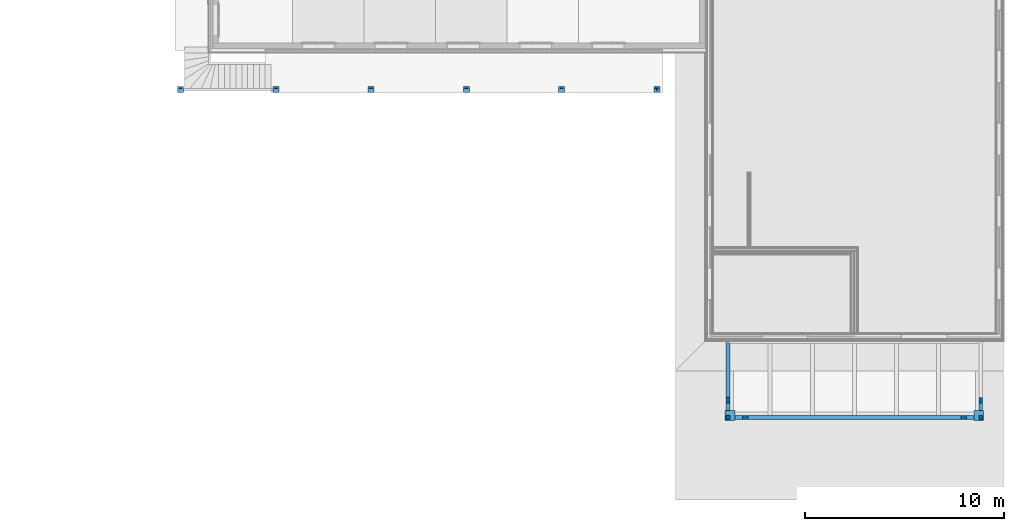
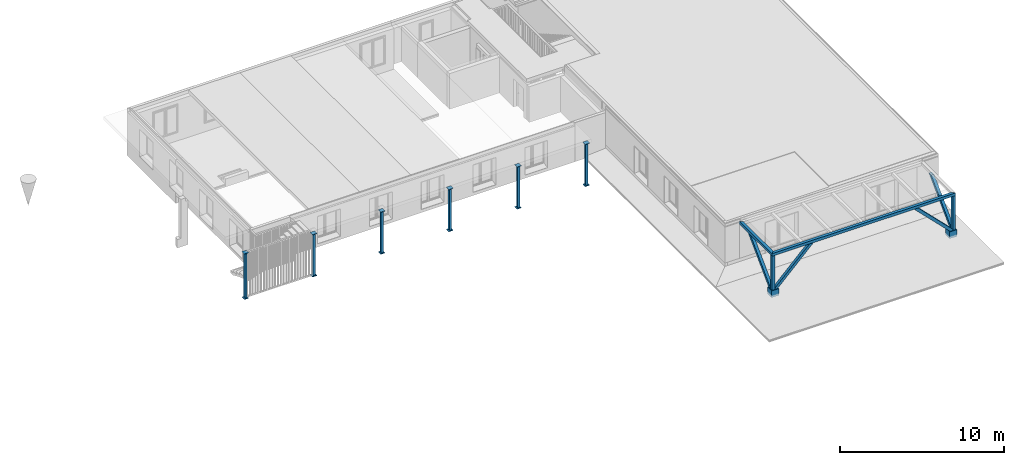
# One storey, part 1 of 20: 12 columns, 2 beams, 2 footings.
"""IFC4 building model written with IfcOpenShell, lengths in millimetres."""

from ifc_helpers import new_model, entity, si_unit, converted_unit, derived_unit, direction, frame, origin_with_axes, place, context, subcontext, project, spatial, polygons, material, constituent, constituent_set, type_object, element, save


model = new_model("IFC4")

# Units and contexts
model_context = context("Model", 3, precision=0.01, world=origin_with_axes(), true_north=direction((0.0, 1.0)))
body_context = subcontext(model_context, "Body", "Model", "MODEL_VIEW")
ifc_project = project(units=[si_unit("LENGTHUNIT", "METRE", prefix="MILLI"), si_unit("AREAUNIT", "SQUARE_METRE"), si_unit("VOLUMEUNIT", "CUBIC_METRE"), converted_unit("PLANEANGLEUNIT", "DEGREE", entity("IfcPlaneAngleMeasure", 0.0174532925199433), si_unit("PLANEANGLEUNIT", "RADIAN"), dimensions=[0, 0, 0, 0, 0, 0, 0]), converted_unit("TIMEUNIT", "Year", entity("IfcTimeMeasure", 31557600.0), si_unit("TIMEUNIT", "SECOND"), dimensions=[0, 0, 1, 0, 0, 0, 0]), si_unit("MASSUNIT", "GRAM", prefix="KILO"), si_unit("THERMODYNAMICTEMPERATUREUNIT", "DEGREE_CELSIUS"), si_unit("LUMINOUSINTENSITYUNIT", "LUMEN"), si_unit("ENERGYUNIT", "JOULE", prefix="MEGA"), derived_unit("THERMALCONDUCTANCEUNIT", [(si_unit("POWERUNIT", "WATT"), 1), (si_unit("LENGTHUNIT", "METRE"), -1), (si_unit("THERMODYNAMICTEMPERATUREUNIT", "KELVIN"), -1)]), derived_unit("SPECIFICHEATCAPACITYUNIT", [(si_unit("ENERGYUNIT", "JOULE"), 1), (si_unit("MASSUNIT", "GRAM", prefix="KILO"), -1), (si_unit("THERMODYNAMICTEMPERATUREUNIT", "KELVIN"), -1)]), derived_unit("MASSDENSITYUNIT", [(si_unit("MASSUNIT", "GRAM", prefix="KILO"), 1), (si_unit("VOLUMEUNIT", "CUBIC_METRE"), -1)])], contexts=[model_context])

# Site, building, storey
site_placement = place(None, origin_with_axes())
site = spatial("IfcSite", under=ifc_project, at=site_placement, Name="Gelände", CompositionType="ELEMENT")
building_placement = place(site_placement, origin_with_axes())
building = spatial("IfcBuilding", under=site, at=building_placement, Name="Gebäude", CompositionType="ELEMENT")
storey_placement = place(building_placement, frame((0.0, 0.0, 5.198845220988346e-05), z_axis=(0.0, 0.0, 1.0), x_axis=(1.0, 0.0, 0.0)))
storey = spatial("IfcBuildingStorey", under=building, at=storey_placement, Name="EG", CompositionType="ELEMENT", Elevation=0.0)

# Footings
ifc_material_1 = material(Name="Beton bewehrt")
footing_type = type_object("IfcFootingType", Name="Beton bewehrt 500 x 500", PredefinedType="NOTDEFINED")
footing_1_placement = place(storey_placement, frame((31682.9974188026, 4718.59728131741, 0.0), z_axis=(0.0, 0.0, 1.0), x_axis=(1.0, 0.0, 0.0)))
element("IfcFooting", 1, at=footing_1_placement, inside=storey, type_object=footing_type, material=ifc_material_1, Name="Stütze-015", PredefinedType="NOTDEFINED", context=body_context, shape_type="Tessellation", body=[
    polygons([(250.0, 250.0, 500.0000000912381), (250.0, 250.0, 0.0), (-250.0, 250.0, 0.0), (-250.0, 250.0, 500.0000000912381), (250.0, -250.0, 500.0000000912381), (250.0, -250.0, 0.0), (-250.0, -250.0, 0.0), (-250.0, -250.0, 500.0000000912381)], [[[1, 2, 3, 4]], [[5, 6, 2, 1]], [[3, 2, 6, 7]], [[4, 3, 7, 8]], [[5, 1, 4, 8]], [[8, 7, 6, 5]]], closed=True),
])
footing_2_placement = place(storey_placement, frame((19174.99747005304, 4718.59728131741, 0.0), z_axis=(0.0, 0.0, 1.0), x_axis=(1.0, 0.0, 0.0)))
element("IfcFooting", 2, at=footing_2_placement, inside=storey, type_object=footing_type, material=ifc_material_1, Name="Stütze-015", PredefinedType="NOTDEFINED", context=body_context, shape_type="Tessellation", body=[
    polygons([(-250.0, -250.0, 500.0000000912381), (-250.0, -250.0, 0.0), (250.0, -250.0, 0.0), (250.0, -250.0, 500.0000000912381), (-250.0, 250.0, 500.0000000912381), (-250.0, 250.0, 0.0), (250.0, 250.0, 0.0), (250.0, 250.0, 500.0000000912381)], [[[1, 2, 3, 4]], [[5, 6, 2, 1]], [[3, 2, 6, 7]], [[4, 3, 7, 8]], [[5, 1, 4, 8]], [[8, 7, 6, 5]]], closed=True),
])

# Columns
ifc_material_2 = material(Name="Massivholz")
column_type_1 = type_object("IfcColumnType", Name="Massivholz 200 x 200", PredefinedType="NOTDEFINED")
column_1_placement = place(storey_placement, frame((31782.9974188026, 4777.175925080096, 500.0000000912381), z_axis=(0.0, 0.0, 1.0), x_axis=(1.0, 0.0, 0.0)))
element("IfcColumn", 3, at=column_1_placement, inside=storey, type_object=column_type_1, material=ifc_material_2, Name="Stütze-015", PredefinedType="NOTDEFINED", context=body_context, shape_type="Tessellation", body=[
    polygons([(-100.0000000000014, -58.57864376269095, 82.84271247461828), (100.0000000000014, -58.5786437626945, 82.84271247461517), (100.0000000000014, 2378.578591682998, 2519.999947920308), (-99.99999999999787, 2378.578591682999, 2519.999947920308), (100.0000000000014, -58.5786437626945, 0.0), (-100.0000000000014, -58.57864376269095, 0.0), (100.0000000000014, 141.4213562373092, 0.0), (100.0000000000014, 2661.421304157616, 2519.999947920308), (-100.0000000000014, 2661.421304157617, 2519.999947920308), (-99.99999999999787, 141.4213562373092, 0.0)], [[[1, 2, 3, 4]], [[5, 2, 1, 6]], [[2, 5, 7, 8, 3]], [[8, 9, 4, 3]], [[6, 1, 4, 9, 10]], [[5, 6, 10, 7]], [[9, 8, 7, 10]]], closed=True),
])
column_2_placement = place(storey_placement, frame((31624.41877503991, 4618.597281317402, 500.0000000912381), z_axis=(0.0, 0.0, 1.0), x_axis=(0.0, 1.0, 0.0)))
element("IfcColumn", 4, at=column_2_placement, inside=storey, type_object=column_type_1, material=ifc_material_2, Name="Stütze-015", PredefinedType="NOTDEFINED", context=body_context, shape_type="Tessellation", body=[
    polygons([(-99.99999999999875, -58.57864376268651, 82.84271247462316), (100.0000000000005, -58.57864376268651, 82.84271247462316), (100.0000000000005, 2378.578591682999, 2519.999947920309), (-99.99999999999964, 2378.578591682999, 2519.999947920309), (100.0000000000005, -58.57864376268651, 0.0), (-99.99999999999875, -58.57864376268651, 0.0), (99.99999999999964, 141.4213562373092, 0.0), (100.0000000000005, 2661.421304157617, 2519.999947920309), (-99.99999999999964, 2661.421304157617, 2519.999947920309), (-99.99999999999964, 141.4213562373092, 0.0)], [[[1, 2, 3, 4]], [[5, 2, 1, 6]], [[2, 5, 7, 8, 3]], [[4, 3, 8, 9]], [[6, 1, 4, 9, 10]], [[5, 6, 10, 7]], [[9, 8, 7, 10]]], closed=True),
])
column_3_placement = place(storey_placement, frame((31782.9974188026, 4618.597281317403, 500.0000000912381), z_axis=(0.0, 0.0, 1.0), x_axis=(1.0, 0.0, 0.0)))
element("IfcColumn", 5, at=column_3_placement, inside=storey, type_object=column_type_1, material=ifc_material_2, Name="Stütze-015", PredefinedType="NOTDEFINED", context=body_context, shape_type="Tessellation", body=[
    polygons([(100.0000000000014, 99.99999999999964, 2519.999947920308), (100.0000000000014, 99.99999999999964, 0.0), (-100.0000000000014, 99.99999999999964, 0.0), (-100.0000000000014, 99.99999999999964, 2519.999947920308), (100.0000000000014, -99.99999999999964, 2519.999947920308), (100.0000000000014, -99.99999999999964, 0.0), (-100.0000000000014, -99.99999999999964, 0.0), (-100.0000000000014, -99.99999999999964, 2519.999947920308)], [[[1, 2, 3, 4]], [[5, 6, 2, 1]], [[3, 2, 6, 7]], [[4, 3, 7, 8]], [[5, 1, 4, 8]], [[8, 7, 6, 5]]], closed=True),
])
column_4_placement = place(storey_placement, frame((19074.99747005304, 4777.175925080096, 500.0000000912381), z_axis=(0.0, 0.0, 1.0), x_axis=(1.0, 0.0, 0.0)))
element("IfcColumn", 6, at=column_4_placement, inside=storey, type_object=column_type_1, material=ifc_material_2, Name="Stütze-015", PredefinedType="NOTDEFINED", context=body_context, shape_type="Tessellation", body=[
    polygons([(-100.0000000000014, -58.5786437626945, 82.84271247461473), (100.0000000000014, -58.57864376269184, 82.84271247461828), (99.99999999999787, 2378.578591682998, 2519.999947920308), (-100.0000000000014, 2378.578591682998, 2519.999947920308), (100.0000000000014, -58.57864376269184, 0.0), (-100.0000000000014, -58.5786437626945, 0.0), (100.0000000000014, 141.4213562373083, 0.0), (100.0000000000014, 2661.421304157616, 2519.999947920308), (-99.99999999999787, 2661.421304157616, 2519.999947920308), (-99.99999999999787, 141.4213562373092, 0.0)], [[[1, 2, 3, 4]], [[5, 2, 1, 6]], [[2, 5, 7, 8, 3]], [[4, 3, 8, 9]], [[6, 1, 4, 9, 10]], [[5, 6, 10, 7]], [[9, 8, 7, 10]]], closed=True),
])
column_5_placement = place(storey_placement, frame((19233.57611381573, 4618.597281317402, 500.0000000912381), z_axis=(0.0, 0.0, 1.0), x_axis=(0.0, -1.0, 0.0)))
element("IfcColumn", 7, at=column_5_placement, inside=storey, type_object=column_type_1, material=ifc_material_2, Name="Stütze-015", PredefinedType="NOTDEFINED", context=body_context, shape_type="Tessellation", body=[
    polygons([(-100.0000000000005, -58.57864376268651, 0.0), (-100.0000000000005, -58.57864376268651, 82.84271247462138), (-100.0000000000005, 2378.578591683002, 2519.999947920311), (-100.0000000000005, 2661.421304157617, 2519.999947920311), (-100.0000000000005, 141.4213562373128, 0.0), (99.99999999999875, -58.57864376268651, 82.84271247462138), (99.99999999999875, -58.57864376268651, 0.0), (99.99999999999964, 2378.578591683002, 2519.999947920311), (99.99999999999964, 2661.421304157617, 2519.999947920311), (99.99999999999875, 141.4213562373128, 0.0)], [[[1, 2, 3, 4, 5]], [[6, 2, 1, 7]], [[2, 6, 8, 3]], [[9, 4, 3, 8]], [[4, 9, 10, 5]], [[7, 1, 5, 10]], [[6, 7, 10, 9, 8]]], closed=True),
])
column_6_placement = place(storey_placement, frame((19074.99747005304, 4618.597281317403, 500.0000000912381), z_axis=(0.0, 0.0, 1.0), x_axis=(1.0, 0.0, 0.0)))
element("IfcColumn", 8, at=column_6_placement, inside=storey, type_object=column_type_1, material=ifc_material_2, Name="Stütze-015", PredefinedType="NOTDEFINED", context=body_context, shape_type="Tessellation", body=[
    polygons([(-100.0000000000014, -99.99999999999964, 2519.999947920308), (-100.0000000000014, -99.99999999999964, 0.0), (100.0000000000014, -99.99999999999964, 0.0), (100.0000000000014, -99.99999999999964, 2519.999947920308), (-100.0000000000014, 99.99999999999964, 2519.999947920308), (-100.0000000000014, 99.99999999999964, 0.0), (100.0000000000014, 99.99999999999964, 0.0), (100.0000000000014, 99.99999999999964, 2519.999947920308)], [[[1, 2, 3, 4]], [[5, 6, 2, 1]], [[3, 2, 6, 7]], [[4, 3, 7, 8]], [[5, 1, 4, 8]], [[8, 7, 6, 5]]], closed=True),
])
ifc_material_3 = material(Name="Stahl")
ifc_constituent_1 = constituent(ifc_material_3, Name="Stahl 1")
ifc_constituent_2 = constituent(ifc_material_3, Name="Stahl 2")
ifc_constituent_3 = constituent(ifc_material_3, Name="Stahl 3")
ifc_constituent_set_1 = constituent_set(constituents=[ifc_constituent_1, ifc_constituent_2, ifc_constituent_3])
column_type_2 = type_object("IfcColumnType", Name="Verschiedene Strukturen - 3 Segmente - 300 x 300 x 3150 (30+3090+30)", PredefinedType="NOTDEFINED")
column_7_placement = place(storey_placement, frame((15487.99581849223, 21097.59674077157, -499.9999999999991), z_axis=(0.0, 0.0, 1.0), x_axis=(1.0, 0.0, 0.0)))
element("IfcColumn", 9, at=column_7_placement, inside=storey, type_object=column_type_2, material=ifc_constituent_set_1, Name="Stütze-015", PredefinedType="NOTDEFINED", context=body_context, shape_type="Tessellation", body=[
    polygons([(-150.0000000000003, -149.9999999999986, 30.00000000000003), (-150.0000000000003, -149.9999999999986, 0.0), (150.0000000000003, -149.9999999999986, 0.0), (150.0000000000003, -149.9999999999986, 30.00000000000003), (-150.0000000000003, 149.9999999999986, 30.00000000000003), (-150.0000000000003, 149.9999999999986, 0.0), (150.0000000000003, 149.9999999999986, 0.0), (150.0000000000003, 149.9999999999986, 30.00000000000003)], [[[1, 2, 3, 4]], [[5, 6, 2, 1]], [[3, 2, 6, 7]], [[4, 3, 7, 8]], [[5, 1, 4, 8]], [[8, 7, 6, 5]]], closed=True),
    polygons([(-80.00000000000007, 76.00000000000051, 3119.999948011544), (-80.00000000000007, 76.00000000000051, 30.00000000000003), (-80.00000000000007, 67.00000000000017, 30.00000000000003), (-80.00000000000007, 67.00000000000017, 3119.999948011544), (80.00000000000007, 76.00000000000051, 3119.999948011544), (80.00000000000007, 76.00000000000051, 30.00000000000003), (80.00000000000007, 67.00000000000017, 30.00000000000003), (3.000000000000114, 67.00000000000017, 30.00000000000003), (3.000000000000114, -67.00000000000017, 30.00000000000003), (80.00000000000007, -67.00000000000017, 30.00000000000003), (80.00000000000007, -76.00000000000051, 30.00000000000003), (-80.00000000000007, -76.00000000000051, 30.00000000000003), (-80.00000000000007, -67.00000000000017, 30.00000000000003), (-3.000000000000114, -67.00000000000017, 30.00000000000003), (-3.000000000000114, 67.00000000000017, 30.00000000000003), (-3.000000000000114, 67.00000000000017, 3119.999948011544), (-3.000000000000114, -67.00000000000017, 3119.999948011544), (-80.00000000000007, -67.00000000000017, 3119.999948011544), (-80.00000000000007, -76.00000000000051, 3119.999948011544), (80.00000000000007, -76.00000000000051, 3119.999948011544), (80.00000000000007, -67.00000000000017, 3119.999948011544), (3.000000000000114, -67.00000000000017, 3119.999948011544), (3.000000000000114, 67.00000000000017, 3119.999948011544), (80.00000000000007, 67.00000000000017, 3119.999948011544)], [[[1, 2, 3, 4]], [[5, 6, 2, 1]], [[3, 2, 6, 7, 8, 9, 10, 11, 12, 13, 14, 15]], [[4, 3, 15, 16]], [[5, 1, 4, 16, 17, 18, 19, 20, 21, 22, 23, 24]], [[24, 7, 6, 5]], [[23, 8, 7, 24]], [[22, 9, 8, 23]], [[21, 10, 9, 22]], [[20, 11, 10, 21]], [[19, 12, 11, 20]], [[18, 13, 12, 19]], [[17, 14, 13, 18]], [[16, 15, 14, 17]]], closed=True),
    polygons([(-150.0000000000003, -149.9999999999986, 3149.999948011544), (-150.0000000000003, -149.9999999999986, 3119.999948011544), (150.0000000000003, -149.9999999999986, 3119.999948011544), (150.0000000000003, -149.9999999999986, 3149.999948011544), (-150.0000000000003, 149.9999999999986, 3149.999948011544), (-150.0000000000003, 149.9999999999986, 3119.999948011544), (150.0000000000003, 149.9999999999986, 3119.999948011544), (150.0000000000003, 149.9999999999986, 3149.999948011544)], [[[1, 2, 3, 4]], [[5, 6, 2, 1]], [[3, 2, 6, 7]], [[4, 3, 7, 8]], [[5, 1, 4, 8]], [[8, 7, 6, 5]]], closed=True),
])
ifc_constituent_4 = constituent(ifc_material_3, Name="Stahl 1")
ifc_constituent_5 = constituent(ifc_material_3, Name="Stahl 2")
ifc_constituent_6 = constituent(ifc_material_3, Name="Stahl 3")
ifc_constituent_set_2 = constituent_set(constituents=[ifc_constituent_4, ifc_constituent_5, ifc_constituent_6])
column_8_placement = place(storey_placement, frame((10697.19581849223, 21097.59674077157, -499.9999999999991), z_axis=(0.0, 0.0, 1.0), x_axis=(1.0, 0.0, 0.0)))
element("IfcColumn", 10, at=column_8_placement, inside=storey, type_object=column_type_2, material=ifc_constituent_set_2, Name="Stütze-015", PredefinedType="NOTDEFINED", context=body_context, shape_type="Tessellation", body=[
    polygons([(-150.0000000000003, -149.9999999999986, 30.00000000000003), (-150.0000000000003, -149.9999999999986, 0.0), (150.0000000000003, -149.9999999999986, 0.0), (150.0000000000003, -149.9999999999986, 30.00000000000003), (-150.0000000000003, 149.9999999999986, 30.00000000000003), (-150.0000000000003, 149.9999999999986, 0.0), (150.0000000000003, 149.9999999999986, 0.0), (150.0000000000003, 149.9999999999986, 30.00000000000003)], [[[1, 2, 3, 4]], [[5, 6, 2, 1]], [[3, 2, 6, 7]], [[4, 3, 7, 8]], [[5, 1, 4, 8]], [[8, 7, 6, 5]]], closed=True),
    polygons([(-80.00000000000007, 76.00000000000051, 3119.999948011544), (-80.00000000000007, 76.00000000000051, 30.00000000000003), (-80.00000000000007, 67.00000000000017, 30.00000000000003), (-80.00000000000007, 67.00000000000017, 3119.999948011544), (80.00000000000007, 76.00000000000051, 3119.999948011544), (80.00000000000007, 76.00000000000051, 30.00000000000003), (80.00000000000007, 67.00000000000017, 30.00000000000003), (3.000000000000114, 67.00000000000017, 30.00000000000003), (3.000000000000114, -67.00000000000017, 30.00000000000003), (80.00000000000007, -67.00000000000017, 30.00000000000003), (80.00000000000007, -76.00000000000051, 30.00000000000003), (-80.00000000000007, -76.00000000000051, 30.00000000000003), (-80.00000000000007, -67.00000000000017, 30.00000000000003), (-3.000000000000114, -67.00000000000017, 30.00000000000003), (-3.000000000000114, 67.00000000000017, 30.00000000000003), (-3.000000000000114, 67.00000000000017, 3119.999948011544), (-3.000000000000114, -67.00000000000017, 3119.999948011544), (-80.00000000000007, -67.00000000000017, 3119.999948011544), (-80.00000000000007, -76.00000000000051, 3119.999948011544), (80.00000000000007, -76.00000000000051, 3119.999948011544), (80.00000000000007, -67.00000000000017, 3119.999948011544), (3.000000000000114, -67.00000000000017, 3119.999948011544), (3.000000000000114, 67.00000000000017, 3119.999948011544), (80.00000000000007, 67.00000000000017, 3119.999948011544)], [[[1, 2, 3, 4]], [[5, 6, 2, 1]], [[3, 2, 6, 7, 8, 9, 10, 11, 12, 13, 14, 15]], [[4, 3, 15, 16]], [[5, 1, 4, 16, 17, 18, 19, 20, 21, 22, 23, 24]], [[24, 7, 6, 5]], [[23, 8, 7, 24]], [[22, 9, 8, 23]], [[21, 10, 9, 22]], [[20, 11, 10, 21]], [[19, 12, 11, 20]], [[18, 13, 12, 19]], [[17, 14, 13, 18]], [[16, 15, 14, 17]]], closed=True),
    polygons([(-150.0000000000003, -149.9999999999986, 3149.999948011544), (-150.0000000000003, -149.9999999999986, 3119.999948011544), (150.0000000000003, -149.9999999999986, 3119.999948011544), (150.0000000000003, -149.9999999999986, 3149.999948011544), (-150.0000000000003, 149.9999999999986, 3149.999948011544), (-150.0000000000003, 149.9999999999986, 3119.999948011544), (150.0000000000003, 149.9999999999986, 3119.999948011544), (150.0000000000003, 149.9999999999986, 3149.999948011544)], [[[1, 2, 3, 4]], [[5, 6, 2, 1]], [[3, 2, 6, 7]], [[4, 3, 7, 8]], [[5, 1, 4, 8]], [[8, 7, 6, 5]]], closed=True),
])
ifc_constituent_7 = constituent(ifc_material_3, Name="Stahl 1")
ifc_constituent_8 = constituent(ifc_material_3, Name="Stahl 2")
ifc_constituent_9 = constituent(ifc_material_3, Name="Stahl 3")
ifc_constituent_set_3 = constituent_set(constituents=[ifc_constituent_7, ifc_constituent_8, ifc_constituent_9])
column_9_placement = place(storey_placement, frame((1115.595818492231, 21097.59674077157, -499.9999999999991), z_axis=(0.0, 0.0, 1.0), x_axis=(1.0, 0.0, 0.0)))
element("IfcColumn", 11, at=column_9_placement, inside=storey, type_object=column_type_2, material=ifc_constituent_set_3, Name="Stütze-015", PredefinedType="NOTDEFINED", context=body_context, shape_type="Tessellation", body=[
    polygons([(-149.9999999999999, -149.9999999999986, 30.00000000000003), (-149.9999999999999, -149.9999999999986, 0.0), (149.9999999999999, -149.9999999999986, 0.0), (149.9999999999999, -149.9999999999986, 30.00000000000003), (-149.9999999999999, 149.9999999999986, 30.00000000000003), (-149.9999999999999, 149.9999999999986, 0.0), (149.9999999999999, 149.9999999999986, 0.0), (149.9999999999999, 149.9999999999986, 30.00000000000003)], [[[1, 2, 3, 4]], [[5, 6, 2, 1]], [[3, 2, 6, 7]], [[4, 3, 7, 8]], [[5, 1, 4, 8]], [[8, 7, 6, 5]]], closed=True),
    polygons([(-80.00000000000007, 76.00000000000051, 3119.999948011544), (-80.00000000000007, 76.00000000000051, 30.00000000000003), (-80.00000000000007, 67.00000000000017, 30.00000000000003), (-80.00000000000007, 67.00000000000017, 3119.999948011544), (80.00000000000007, 76.00000000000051, 3119.999948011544), (80.00000000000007, 76.00000000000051, 30.00000000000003), (80.00000000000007, 67.00000000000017, 30.00000000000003), (2.999999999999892, 67.00000000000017, 30.00000000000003), (2.999999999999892, -67.00000000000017, 30.00000000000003), (80.00000000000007, -67.00000000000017, 30.00000000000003), (80.00000000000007, -76.00000000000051, 30.00000000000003), (-80.00000000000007, -76.00000000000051, 30.00000000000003), (-80.00000000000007, -67.00000000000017, 30.00000000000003), (-2.999999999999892, -67.00000000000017, 30.00000000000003), (-2.999999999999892, 67.00000000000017, 30.00000000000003), (-2.999999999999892, 67.00000000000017, 3119.999948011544), (-2.999999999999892, -67.00000000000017, 3119.999948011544), (-80.00000000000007, -67.00000000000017, 3119.999948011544), (-80.00000000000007, -76.00000000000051, 3119.999948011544), (80.00000000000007, -76.00000000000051, 3119.999948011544), (80.00000000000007, -67.00000000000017, 3119.999948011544), (2.999999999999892, -67.00000000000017, 3119.999948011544), (2.999999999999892, 67.00000000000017, 3119.999948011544), (80.00000000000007, 67.00000000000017, 3119.999948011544)], [[[1, 2, 3, 4]], [[5, 6, 2, 1]], [[3, 2, 6, 7, 8, 9, 10, 11, 12, 13, 14, 15]], [[4, 3, 15, 16]], [[5, 1, 4, 16, 17, 18, 19, 20, 21, 22, 23, 24]], [[24, 7, 6, 5]], [[23, 8, 7, 24]], [[22, 9, 8, 23]], [[21, 10, 9, 22]], [[20, 11, 10, 21]], [[19, 12, 11, 20]], [[18, 13, 12, 19]], [[17, 14, 13, 18]], [[16, 15, 14, 17]]], closed=True),
    polygons([(-149.9999999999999, -149.9999999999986, 3149.999948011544), (-149.9999999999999, -149.9999999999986, 3119.999948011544), (149.9999999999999, -149.9999999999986, 3119.999948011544), (149.9999999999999, -149.9999999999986, 3149.999948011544), (-149.9999999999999, 149.9999999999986, 3149.999948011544), (-149.9999999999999, 149.9999999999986, 3119.999948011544), (149.9999999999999, 149.9999999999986, 3119.999948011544), (149.9999999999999, 149.9999999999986, 3149.999948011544)], [[[1, 2, 3, 4]], [[5, 6, 2, 1]], [[3, 2, 6, 7]], [[4, 3, 7, 8]], [[5, 1, 4, 8]], [[8, 7, 6, 5]]], closed=True),
])
ifc_constituent_10 = constituent(ifc_material_3, Name="Stahl 1")
ifc_constituent_11 = constituent(ifc_material_3, Name="Stahl 2")
ifc_constituent_12 = constituent(ifc_material_3, Name="Stahl 3")
ifc_constituent_set_4 = constituent_set(constituents=[ifc_constituent_10, ifc_constituent_11, ifc_constituent_12])
column_10_placement = place(storey_placement, frame((-3675.204181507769, 21097.59674077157, -499.9999999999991), z_axis=(0.0, 0.0, 1.0), x_axis=(1.0, 0.0, 0.0)))
element("IfcColumn", 12, at=column_10_placement, inside=storey, type_object=column_type_2, material=ifc_constituent_set_4, Name="Stütze-015", PredefinedType="NOTDEFINED", context=body_context, shape_type="Tessellation", body=[
    polygons([(-149.9999999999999, -149.9999999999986, 30.00000000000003), (-149.9999999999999, -149.9999999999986, 0.0), (149.9999999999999, -149.9999999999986, 0.0), (149.9999999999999, -149.9999999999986, 30.00000000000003), (-149.9999999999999, 149.9999999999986, 30.00000000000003), (-149.9999999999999, 149.9999999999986, 0.0), (149.9999999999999, 149.9999999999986, 0.0), (149.9999999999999, 149.9999999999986, 30.00000000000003)], [[[1, 2, 3, 4]], [[5, 6, 2, 1]], [[3, 2, 6, 7]], [[4, 3, 7, 8]], [[5, 1, 4, 8]], [[8, 7, 6, 5]]], closed=True),
    polygons([(-80.00000000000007, 76.00000000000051, 3119.999948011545), (-80.00000000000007, 76.00000000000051, 30.00000000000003), (-80.00000000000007, 67.00000000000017, 30.00000000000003), (-80.00000000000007, 67.00000000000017, 3119.999948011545), (80.00000000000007, 76.00000000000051, 3119.999948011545), (80.00000000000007, 76.00000000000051, 30.00000000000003), (80.00000000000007, 67.00000000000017, 30.00000000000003), (3.000000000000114, 67.00000000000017, 30.00000000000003), (3.000000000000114, -67.00000000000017, 30.00000000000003), (80.00000000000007, -67.00000000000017, 30.00000000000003), (80.00000000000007, -76.00000000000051, 30.00000000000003), (-80.00000000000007, -76.00000000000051, 30.00000000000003), (-80.00000000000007, -67.00000000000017, 30.00000000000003), (-3.000000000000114, -67.00000000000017, 30.00000000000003), (-3.000000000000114, 67.00000000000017, 30.00000000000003), (-3.000000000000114, 67.00000000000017, 3119.999948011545), (-3.000000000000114, -67.00000000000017, 3119.999948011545), (-80.00000000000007, -67.00000000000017, 3119.999948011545), (-80.00000000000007, -76.00000000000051, 3119.999948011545), (80.00000000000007, -76.00000000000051, 3119.999948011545), (80.00000000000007, -67.00000000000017, 3119.999948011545), (3.000000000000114, -67.00000000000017, 3119.999948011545), (3.000000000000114, 67.00000000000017, 3119.999948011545), (80.00000000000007, 67.00000000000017, 3119.999948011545)], [[[1, 2, 3, 4]], [[5, 6, 2, 1]], [[3, 2, 6, 7, 8, 9, 10, 11, 12, 13, 14, 15]], [[4, 3, 15, 16]], [[5, 1, 4, 16, 17, 18, 19, 20, 21, 22, 23, 24]], [[24, 7, 6, 5]], [[23, 8, 7, 24]], [[22, 9, 8, 23]], [[21, 10, 9, 22]], [[20, 11, 10, 21]], [[19, 12, 11, 20]], [[18, 13, 12, 19]], [[17, 14, 13, 18]], [[16, 15, 14, 17]]], closed=True),
    polygons([(-149.9999999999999, -149.9999999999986, 3149.999948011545), (-149.9999999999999, -149.9999999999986, 3119.999948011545), (149.9999999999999, -149.9999999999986, 3119.999948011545), (149.9999999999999, -149.9999999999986, 3149.999948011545), (-149.9999999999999, 149.9999999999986, 3149.999948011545), (-149.9999999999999, 149.9999999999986, 3119.999948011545), (149.9999999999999, 149.9999999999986, 3119.999948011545), (149.9999999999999, 149.9999999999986, 3149.999948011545)], [[[1, 2, 3, 4]], [[5, 6, 2, 1]], [[3, 2, 6, 7]], [[4, 3, 7, 8]], [[5, 1, 4, 8]], [[8, 7, 6, 5]]], closed=True),
])
ifc_constituent_13 = constituent(ifc_material_3, Name="Stahl 1")
ifc_constituent_14 = constituent(ifc_material_3, Name="Stahl 2")
ifc_constituent_15 = constituent(ifc_material_3, Name="Stahl 3")
ifc_constituent_set_5 = constituent_set(constituents=[ifc_constituent_13, ifc_constituent_14, ifc_constituent_15])
column_11_placement = place(storey_placement, frame((5906.39581849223, 21097.59674077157, -499.9999999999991), z_axis=(0.0, 0.0, 1.0), x_axis=(1.0, 0.0, 0.0)))
element("IfcColumn", 13, at=column_11_placement, inside=storey, type_object=column_type_2, material=ifc_constituent_set_5, Name="Stütze-015", PredefinedType="NOTDEFINED", context=body_context, shape_type="Tessellation", body=[
    polygons([(-150.0000000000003, -149.9999999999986, 30.00000000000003), (-150.0000000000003, -149.9999999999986, 0.0), (150.0000000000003, -149.9999999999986, 0.0), (150.0000000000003, -149.9999999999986, 30.00000000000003), (-150.0000000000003, 149.9999999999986, 30.00000000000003), (-150.0000000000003, 149.9999999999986, 0.0), (150.0000000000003, 149.9999999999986, 0.0), (150.0000000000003, 149.9999999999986, 30.00000000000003)], [[[1, 2, 3, 4]], [[5, 6, 2, 1]], [[3, 2, 6, 7]], [[4, 3, 7, 8]], [[5, 1, 4, 8]], [[8, 7, 6, 5]]], closed=True),
    polygons([(-80.00000000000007, 76.00000000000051, 3119.999948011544), (-80.00000000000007, 76.00000000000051, 30.00000000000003), (-80.00000000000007, 67.00000000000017, 30.00000000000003), (-80.00000000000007, 67.00000000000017, 3119.999948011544), (80.00000000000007, 76.00000000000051, 3119.999948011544), (80.00000000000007, 76.00000000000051, 30.00000000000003), (80.00000000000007, 67.00000000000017, 30.00000000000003), (3.000000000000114, 67.00000000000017, 30.00000000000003), (3.000000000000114, -67.00000000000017, 30.00000000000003), (80.00000000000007, -67.00000000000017, 30.00000000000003), (80.00000000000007, -76.00000000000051, 30.00000000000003), (-80.00000000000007, -76.00000000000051, 30.00000000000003), (-80.00000000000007, -67.00000000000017, 30.00000000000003), (-3.000000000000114, -67.00000000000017, 30.00000000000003), (-3.000000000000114, 67.00000000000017, 30.00000000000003), (-3.000000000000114, 67.00000000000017, 3119.999948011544), (-3.000000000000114, -67.00000000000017, 3119.999948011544), (-80.00000000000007, -67.00000000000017, 3119.999948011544), (-80.00000000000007, -76.00000000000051, 3119.999948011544), (80.00000000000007, -76.00000000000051, 3119.999948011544), (80.00000000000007, -67.00000000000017, 3119.999948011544), (3.000000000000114, -67.00000000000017, 3119.999948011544), (3.000000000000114, 67.00000000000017, 3119.999948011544), (80.00000000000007, 67.00000000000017, 3119.999948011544)], [[[1, 2, 3, 4]], [[5, 6, 2, 1]], [[3, 2, 6, 7, 8, 9, 10, 11, 12, 13, 14, 15]], [[4, 3, 15, 16]], [[5, 1, 4, 16, 17, 18, 19, 20, 21, 22, 23, 24]], [[24, 7, 6, 5]], [[23, 8, 7, 24]], [[22, 9, 8, 23]], [[21, 10, 9, 22]], [[20, 11, 10, 21]], [[19, 12, 11, 20]], [[18, 13, 12, 19]], [[17, 14, 13, 18]], [[16, 15, 14, 17]]], closed=True),
    polygons([(-150.0000000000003, -149.9999999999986, 3149.999948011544), (-150.0000000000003, -149.9999999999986, 3119.999948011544), (150.0000000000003, -149.9999999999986, 3119.999948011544), (150.0000000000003, -149.9999999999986, 3149.999948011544), (-150.0000000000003, 149.9999999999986, 3149.999948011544), (-150.0000000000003, 149.9999999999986, 3119.999948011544), (150.0000000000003, 149.9999999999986, 3119.999948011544), (150.0000000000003, 149.9999999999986, 3149.999948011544)], [[[1, 2, 3, 4]], [[5, 6, 2, 1]], [[3, 2, 6, 7]], [[4, 3, 7, 8]], [[5, 1, 4, 8]], [[8, 7, 6, 5]]], closed=True),
])
ifc_constituent_16 = constituent(ifc_material_3, Name="Stahl 1")
ifc_constituent_17 = constituent(ifc_material_3, Name="Stahl 2")
ifc_constituent_18 = constituent(ifc_material_3, Name="Stahl 3")
ifc_constituent_set_6 = constituent_set(constituents=[ifc_constituent_16, ifc_constituent_17, ifc_constituent_18])
column_type_3 = type_object("IfcColumnType", Name="Verschiedene Strukturen - 3 Segmente - 300 x 300 x 3400 (30+3340+30)", PredefinedType="NOTDEFINED")
column_12_placement = place(storey_placement, frame((-8466.00418150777, 21097.59674077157, -499.9999999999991), z_axis=(0.0, 0.0, 1.0), x_axis=(1.0, 0.0, 0.0)))
element("IfcColumn", 14, at=column_12_placement, inside=storey, type_object=column_type_3, material=ifc_constituent_set_6, Name="Stütze-015", PredefinedType="NOTDEFINED", context=body_context, shape_type="Tessellation", body=[
    polygons([(-150.0000000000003, -149.9999999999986, 30.00000000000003), (-150.0000000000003, -149.9999999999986, 0.0), (150.0000000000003, -149.9999999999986, 0.0), (150.0000000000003, -149.9999999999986, 30.00000000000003), (-150.0000000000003, 149.9999999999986, 30.00000000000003), (-150.0000000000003, 149.9999999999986, 0.0), (150.0000000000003, 149.9999999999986, 0.0), (150.0000000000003, 149.9999999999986, 30.00000000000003)], [[[1, 2, 3, 4]], [[5, 6, 2, 1]], [[3, 2, 6, 7]], [[4, 3, 7, 8]], [[5, 1, 4, 8]], [[8, 7, 6, 5]]], closed=True),
    polygons([(-80.00000000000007, 76.00000000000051, 3369.999948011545), (-80.00000000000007, 76.00000000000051, 30.00000000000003), (-80.00000000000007, 67.00000000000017, 30.00000000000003), (-80.00000000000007, 67.00000000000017, 3369.999948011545), (80.00000000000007, 76.00000000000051, 3369.999948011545), (80.00000000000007, 76.00000000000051, 30.00000000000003), (80.00000000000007, 67.00000000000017, 30.00000000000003), (3.000000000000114, 67.00000000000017, 30.00000000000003), (3.000000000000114, -67.00000000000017, 30.00000000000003), (80.00000000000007, -67.00000000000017, 30.00000000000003), (80.00000000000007, -76.00000000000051, 30.00000000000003), (-80.00000000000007, -76.00000000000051, 30.00000000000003), (-80.00000000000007, -67.00000000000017, 30.00000000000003), (-3.000000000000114, -67.00000000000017, 30.00000000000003), (-3.000000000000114, 67.00000000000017, 30.00000000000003), (-3.000000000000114, 67.00000000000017, 3369.999948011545), (-3.000000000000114, -67.00000000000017, 3369.999948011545), (-80.00000000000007, -67.00000000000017, 3369.999948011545), (-80.00000000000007, -76.00000000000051, 3369.999948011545), (80.00000000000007, -76.00000000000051, 3369.999948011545), (80.00000000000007, -67.00000000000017, 3369.999948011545), (3.000000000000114, -67.00000000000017, 3369.999948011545), (3.000000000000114, 67.00000000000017, 3369.999948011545), (80.00000000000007, 67.00000000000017, 3369.999948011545)], [[[1, 2, 3, 4]], [[5, 6, 2, 1]], [[3, 2, 6, 7, 8, 9, 10, 11, 12, 13, 14, 15]], [[4, 3, 15, 16]], [[5, 1, 4, 16, 17, 18, 19, 20, 21, 22, 23, 24]], [[24, 7, 6, 5]], [[23, 8, 7, 24]], [[22, 9, 8, 23]], [[21, 10, 9, 22]], [[20, 11, 10, 21]], [[19, 12, 11, 20]], [[18, 13, 12, 19]], [[17, 14, 13, 18]], [[16, 15, 14, 17]]], closed=True),
    polygons([(-150.0000000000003, -149.9999999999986, 3399.999948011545), (-150.0000000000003, -149.9999999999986, 3369.999948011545), (150.0000000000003, -149.9999999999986, 3369.999948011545), (150.0000000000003, -149.9999999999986, 3399.999948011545), (-150.0000000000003, 149.9999999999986, 3399.999948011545), (-150.0000000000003, 149.9999999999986, 3369.999948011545), (150.0000000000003, 149.9999999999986, 3369.999948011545), (150.0000000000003, 149.9999999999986, 3399.999948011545)], [[[1, 2, 3, 4]], [[5, 6, 2, 1]], [[3, 2, 6, 7]], [[4, 3, 7, 8]], [[5, 1, 4, 8]], [[8, 7, 6, 5]]], closed=True),
])

# Beams
beam_type = type_object("IfcBeamType", Name="Massivholz 200 x 200", PredefinedType="NOTDEFINED")
beam_1_placement = place(storey_placement, frame((31882.9974188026, 4518.597281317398, 3219.999948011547), z_axis=(0.0, 0.0, 1.0), x_axis=(0.0, 1.0, 0.0)))
element("IfcBeam", 15, at=beam_1_placement, inside=storey, type_object=beam_type, material=ifc_material_2, Name="Unterzug-027", PredefinedType="NOTDEFINED", context=body_context, shape_type="Tessellation", body=[
    polygons([(199.9999999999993, 199.9999999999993, 0.0), (199.9999999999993, 12707.99994874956, 0.0), (0.0, 12907.99994874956, 0.0), (0.0, 0.0, 0.0), (199.9999999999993, 199.9999999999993, -200.0000000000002), (199.9999999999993, 12707.99994874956, -200.0000000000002), (0.0, 12907.99994874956, -200.0000000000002), (0.0, 0.0, -200.0000000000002)], [[[1, 2, 3, 4]], [[5, 6, 2, 1]], [[3, 2, 6, 7]], [[4, 3, 7, 8]], [[5, 1, 4, 8]], [[8, 7, 6, 5]]], closed=True),
])
beam_2_placement = place(storey_placement, frame((18974.99747005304, 8518.597281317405, 3219.999948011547), z_axis=(0.0, 0.0, 1.0), x_axis=(-1.0, 0.0, 0.0)))
element("IfcBeam", 16, at=beam_2_placement, inside=storey, type_object=beam_type, material=ifc_material_2, Name="Unterzug-027", PredefinedType="NOTDEFINED", context=body_context, shape_type="Tessellation", body=[
    polygons([(-199.9999999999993, 199.9999999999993, -200.0000000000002), (-199.9999999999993, 3799.999999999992, -200.0000000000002), (0.0, 3999.999999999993, -200.0000000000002), (0.0, 0.0, -200.0000000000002), (-199.9999999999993, 199.9999999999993, 0.0), (-199.9999999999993, 3799.999999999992, 0.0), (0.0, 3999.999999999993, 0.0), (0.0, 0.0, 0.0)], [[[1, 2, 3, 4]], [[5, 6, 2, 1]], [[3, 2, 6, 7]], [[4, 3, 7, 8]], [[5, 1, 4, 8]], [[8, 7, 6, 5]]], closed=True),
])

save(model, "model.ifc")
